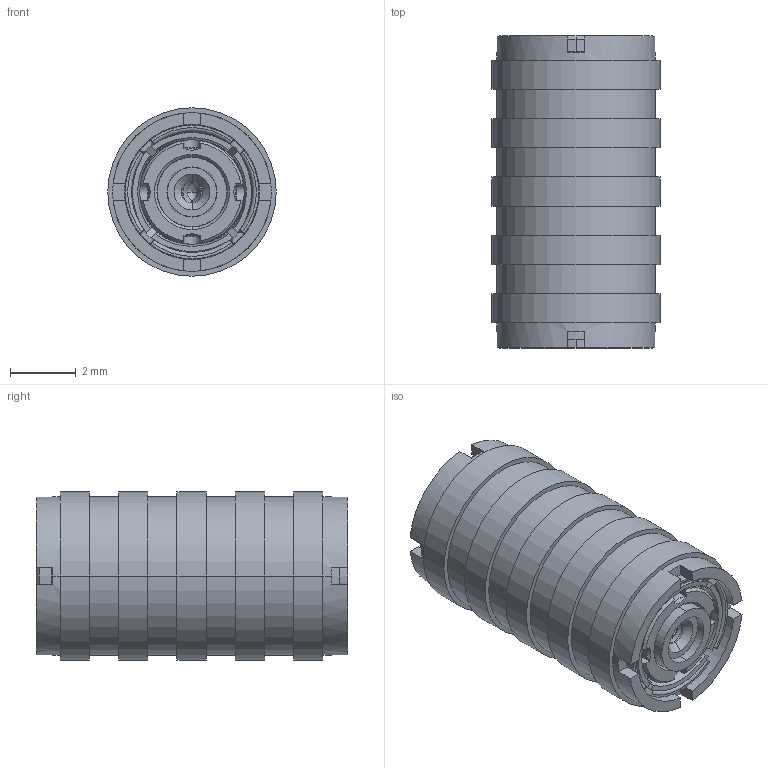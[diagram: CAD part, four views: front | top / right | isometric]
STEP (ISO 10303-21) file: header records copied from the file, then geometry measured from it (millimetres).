
FILE_DESCRIPTION((''),'2;1');
FILE_NAME('CONN_MMCX_ADAPT_062_RLV_ASM','2026-05-21T11:23:59',('mthomps2'),(''),'CREO PARAMETRIC BY PTC INC, 2022284','CREO PARAMETRIC BY PTC INC, 2022284','');
FILE_SCHEMA(('CONFIG_CONTROL_DESIGN','SHAPE_APPEARANCE_LAYERS_GROUPS'));
Length unit declared in the file: inch
Products named in the file (7): SHELL_CONN_MMCX_062_RLV; INSULATOR_CONTACT_MMCX_062_RLV; SOCKET_CONN_MMCX_062_RLV; SLEEVE_SOCKET_MMCX_062_RLV; SLEEVE_CONTACT_MMCX_062_RLV; SLEEVE_INSULATOR_MMCX_062_RLV; CONN_MMCX_ADAPT_062_RLV_ASM
Assembly tree (6 placements, depth 2):
  CONN_MMCX_ADAPT_062_RLV_ASM
    SHELL_CONN_MMCX_062_RLV
    INSULATOR_CONTACT_MMCX_062_RLV
    SOCKET_CONN_MMCX_062_RLV
    SLEEVE_SOCKET_MMCX_062_RLV
    SLEEVE_CONTACT_MMCX_062_RLV
    SLEEVE_INSULATOR_MMCX_062_RLV
Bounding box: 5.13 x 9.5 x 5.13 mm (x, y, z)
Volume: 148.4 mm3; surface area: 843 mm2
Topology: 6 solids, 6 shells, 383 faces, 991 edges, 672 vertices
Faces by surface type: plane 145, cylinder 110, cone 56, extrusion 52, torus 16, bspline 4
Entity records: 18225 total; most frequent: CARTESIAN_POINT 3411, DIRECTION 1977, ORIENTED_EDGE 1904, PRESENTATION_STYLE_ASSIGNMENT 1309, STYLED_ITEM 1309, CURVE_STYLE 1031, EDGE_CURVE 952, AXIS2_PLACEMENT_3D 733
